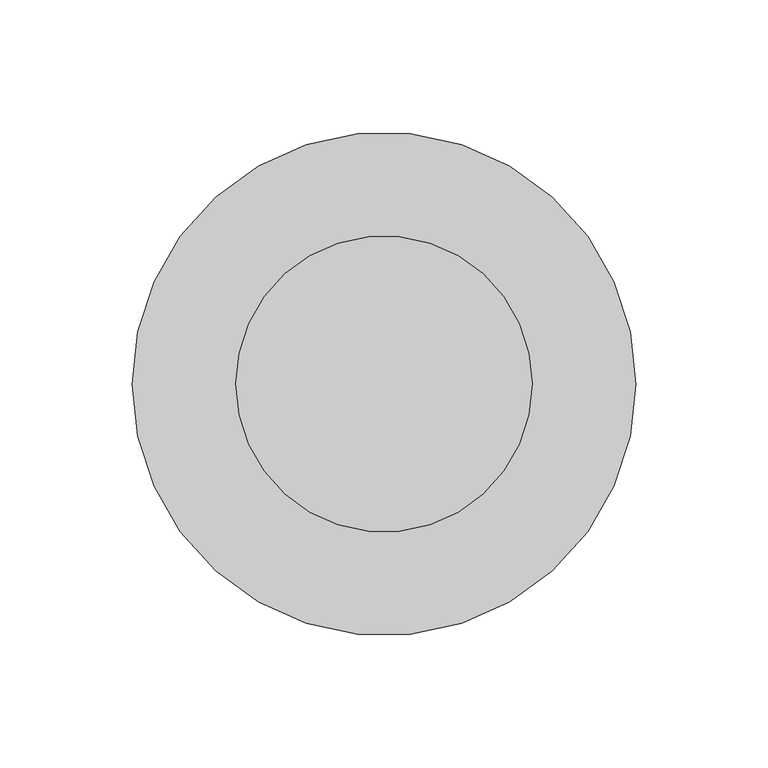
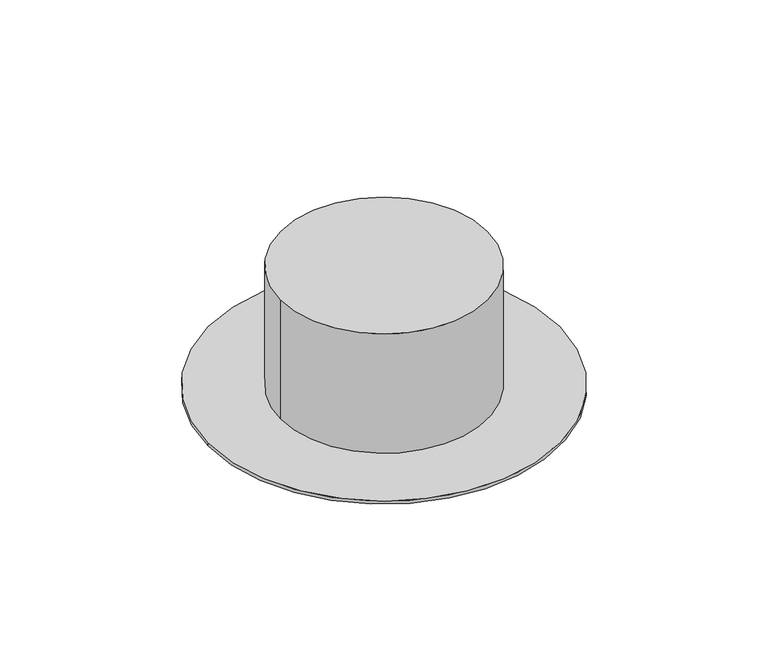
"""IFC4 building model written with IfcOpenShell, lengths in millimetres: proxy geometry, Building Materials_Other_Accessory_PIPE BASE_for ATLANTIS : PIPE BASE_Ø110."""

from ifc_helpers import new_model, si_unit, point, frame, origin, origin_with_axes, origin_2d, place, context, project, spatial, circle_curve, trimmed, segment, composite_curve, outline, extrude, source, transform, mapped, element, save


def generic_models_6a19e57f(model_context):
    return source(origin(), model_context, "Body", "SweptSolid", [
        extrude(outline(composite_curve([segment(trimmed(circle_curve(origin_2d(), 55.9), [point((-55.9, 0.0))], [point((55.9, 0.0))], False, "CARTESIAN"), True, "CONTINUOUS"), segment(trimmed(circle_curve(origin_2d(), 55.9), [point((55.9, 0.0))], [point((-55.9, 0.0))], False, "CARTESIAN"), True, "CONTINUOUS")], self_intersect=False)), frame((0.0, 0.0, 1.8), z_axis=(0.0, 0.0, 1.0), x_axis=(1.0, 0.0, 0.0)), (0.0, 0.0, 1.0), 68.2),
        extrude(outline(composite_curve([segment(trimmed(circle_curve(origin_2d(), 95.0), [point((-95.0, 0.0))], [point((95.0, 0.0))], False, "CARTESIAN"), True, "CONTINUOUS"), segment(trimmed(circle_curve(origin_2d(), 95.0), [point((95.0, 0.0))], [point((-95.0, 0.0))], False, "CARTESIAN"), True, "CONTINUOUS")], self_intersect=False)), origin_with_axes(), (0.0, 0.0, 1.0), 1.8),
    ])


if __name__ == "__main__":
    model = new_model("IFC4")
    model_context = context("Model", 3, world=origin())
    ifc_project = project(units=[si_unit("LENGTHUNIT", "METRE", prefix="MILLI")], contexts=[model_context])
    site = spatial("IfcSite", under=ifc_project)
    building = spatial("IfcBuilding", under=site)
    placement = place(None, origin())
    generic_models_shape = generic_models_6a19e57f(model_context)
    element("IfcBuildingElementProxy", 1, Name="Building Materials_Other_Accessory_PIPE BASE_for ATLANTIS : PIPE BASE_Ø110", ObjectType="Building Materials_Other_Accessory_PIPE BASE_for ATLANTIS : PIPE BASE_Ø110", at=placement, inside=building, context=model_context, shape_type="MappedRepresentation", body=[
        mapped(generic_models_shape, transform((0.0, 0.0, 0.0), x_axis=(1.0, 0.0, 0.0), y_axis=(0.0, 1.0, 0.0), z_axis=(0.0, 0.0, 1.0))),
    ])
    save(model, "model.ifc")
